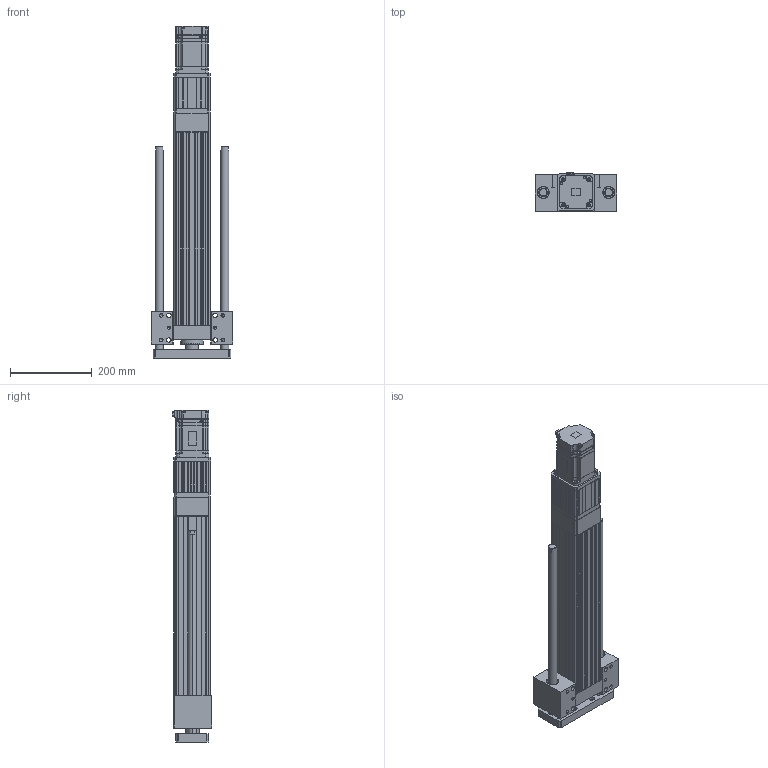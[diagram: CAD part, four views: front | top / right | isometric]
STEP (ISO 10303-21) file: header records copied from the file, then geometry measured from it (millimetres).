
FILE_DESCRIPTION (( 'STEP AP203' ), '1' );
FILE_NAME ('ANS090R-HS350-05(10)(20)-W75.STEP', '2019-03-02T09:24:08', ( 'user' ), ( '' ), 'SwSTEP 2.0', 'SolidWorks 2013', '' );
FILE_SCHEMA (( 'CONFIG_CONTROL_DESIGN' ));
Length unit declared in the file: millimetre
Products named in the file (4): SGMJV_08A_A21; ANS090 ROD ST350-H; ANS090R-HS350-05(10)(20)-W75; ANS090R HS350 VER2
Assembly tree (3 placements, depth 2):
  ANS090R-HS350-05(10)(20)-W75
    ANS090R HS350 VER2
    SGMJV_08A_A21
    ANS090 ROD ST350-H
Bounding box: 200 x 95.8 x 810.1 mm (x, y, z)
Volume: 4761912.3 mm3; surface area: 797596.3 mm2
Topology: 3 solids, 3 shells, 1600 faces, 4288 edges, 2780 vertices
Faces by surface type: plane 982, cylinder 486, cone 128, bspline 4
Entity records: 50298 total; most frequent: CARTESIAN_POINT 9440, ORIENTED_EDGE 8528, DIRECTION 8312, EDGE_CURVE 4264, VECTOR 3080, LINE 3080, VERTEX_POINT 2780, AXIS2_PLACEMENT_3D 2616
